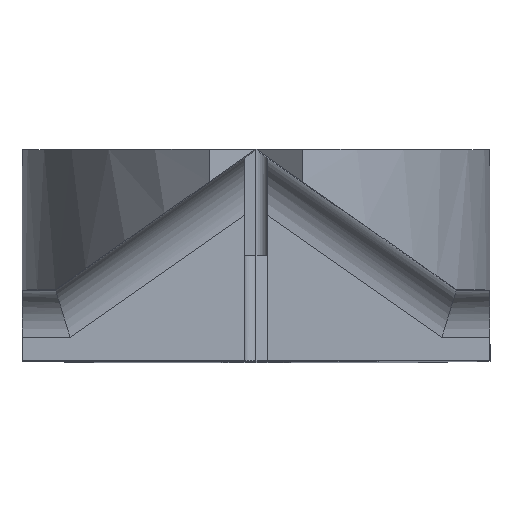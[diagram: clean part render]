
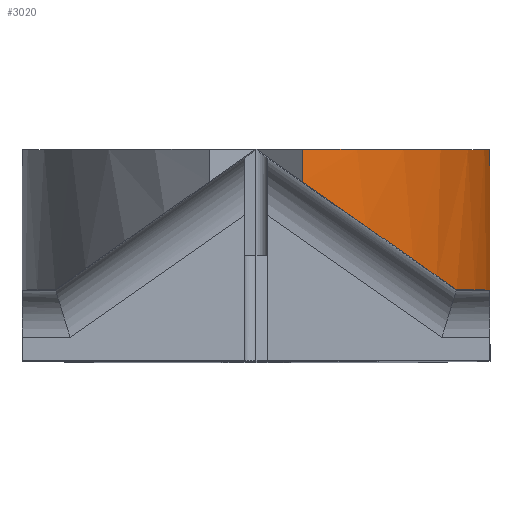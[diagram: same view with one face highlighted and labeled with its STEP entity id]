
A CAD part, top view. The second image highlights one B-rep face of the part: STEP entity #3020.
In plain terms, the highlighted cylindrical face has radius 20 mm (diameter 40 mm), a partial arc.
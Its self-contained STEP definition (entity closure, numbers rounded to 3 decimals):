
#10 = VERTEX_POINT ( 'NONE', #963 ) ;
#35 = AXIS2_PLACEMENT_3D ( 'NONE', #1016, #2726, #1261 ) ;
#59 = EDGE_CURVE ( 'NONE', #10, #215, #2411, .T. ) ;
#215 = VERTEX_POINT ( 'NONE', #2945 ) ;
#223 = LINE ( 'NONE', #3101, #2754 ) ;
#426 = CARTESIAN_POINT ( 'NONE',  ( 2., 6., 35. ) ) ;
#480 = CARTESIAN_POINT ( 'NONE',  ( -10., 3., 19. ) ) ;
#518 = CIRCLE ( 'NONE', #35, 20. ) ;
#560 = AXIS2_PLACEMENT_3D ( 'NONE', #480, #2216, #731 ) ;
#581 = ORIENTED_EDGE ( 'NONE', *, *, #1966, .T. ) ;
#670 = DIRECTION ( 'NONE',  ( 0., -1., 0. ) ) ;
#731 = DIRECTION ( 'NONE',  ( -1., 0., 0. ) ) ;
#792 = FACE_OUTER_BOUND ( 'NONE', #2178, .T. ) ;
#860 = LINE ( 'NONE', #426, #2015 ) ;
#883 = CIRCLE ( 'NONE', #560, 20. ) ;
#963 = CARTESIAN_POINT ( 'NONE',  ( 2., 7.6, 35. ) ) ;
#987 = CARTESIAN_POINT ( 'NONE',  ( -10., 3., 19. ) ) ;
#1016 = CARTESIAN_POINT ( 'NONE',  ( -10., 9., 19. ) ) ;
#1229 = AXIS2_PLACEMENT_3D ( 'NONE', #987, #1230, #2458 ) ;
#1230 = DIRECTION ( 'NONE',  ( 0., 1., 0. ) ) ;
#1261 = DIRECTION ( 'NONE',  ( -1., 0., 0. ) ) ;
#1507 = CARTESIAN_POINT ( 'NONE',  ( 8.569, 3., 26.429 ) ) ;
#1630 = VERTEX_POINT ( 'NONE', #2180 ) ;
#1703 = CARTESIAN_POINT ( 'NONE',  ( 4.953, 5.532, 32.786 ) ) ;
#1917 = DIRECTION ( 'NONE',  ( 0., 1., 0. ) ) ;
#1966 = EDGE_CURVE ( 'NONE', #2510, #10, #860, .T. ) ;
#2015 = VECTOR ( 'NONE', #670, 1000. ) ;
#2120 = CYLINDRICAL_SURFACE ( 'NONE', #1229, 20. ) ;
#2135 = ORIENTED_EDGE ( 'NONE', *, *, #2474, .F. ) ;
#2178 = EDGE_LOOP ( 'NONE', ( #581, #2883, #2695, #2231, #2135 ) ) ;
#2180 = CARTESIAN_POINT ( 'NONE',  ( 10., 9., 19. ) ) ;
#2216 = DIRECTION ( 'NONE',  ( 0., 1., 0. ) ) ;
#2231 = ORIENTED_EDGE ( 'NONE', *, *, #3003, .T. ) ;
#2411 =( BOUNDED_CURVE ( )  B_SPLINE_CURVE ( 3, ( #2903, #1703, #2498, #1507 ),
 .UNSPECIFIED., .F., .F. ) 
 B_SPLINE_CURVE_WITH_KNOTS ( ( 4, 4 ),
 ( 2.214, 2.761 ),
 .UNSPECIFIED. ) 
 CURVE ( )  GEOMETRIC_REPRESENTATION_ITEM ( )  RATIONAL_B_SPLINE_CURVE ( ( 1., 0.975, 0.975, 1. ) ) 
 REPRESENTATION_ITEM ( '' )  );
#2458 = DIRECTION ( 'NONE',  ( -1., 0., 0. ) ) ;
#2474 = EDGE_CURVE ( 'NONE', #2510, #1630, #518, .T. ) ;
#2485 = CARTESIAN_POINT ( 'NONE',  ( 2., 9., 35. ) ) ;
#2498 = CARTESIAN_POINT ( 'NONE',  ( 7.198, 3.96, 29.856 ) ) ;
#2510 = VERTEX_POINT ( 'NONE', #2485 ) ;
#2695 = ORIENTED_EDGE ( 'NONE', *, *, #3008, .T. ) ;
#2711 = CARTESIAN_POINT ( 'NONE',  ( 10., 3., 19. ) ) ;
#2726 = DIRECTION ( 'NONE',  ( 0., 1., 0. ) ) ;
#2754 = VECTOR ( 'NONE', #1917, 1000. ) ;
#2883 = ORIENTED_EDGE ( 'NONE', *, *, #59, .T. ) ;
#2903 = CARTESIAN_POINT ( 'NONE',  ( 2., 7.6, 35. ) ) ;
#2945 = CARTESIAN_POINT ( 'NONE',  ( 8.569, 3., 26.429 ) ) ;
#3003 = EDGE_CURVE ( 'NONE', #3032, #1630, #223, .T. ) ;
#3008 = EDGE_CURVE ( 'NONE', #215, #3032, #883, .T. ) ;
#3020 = ADVANCED_FACE ( 'NONE', ( #792 ), #2120, .T. ) ;
#3032 = VERTEX_POINT ( 'NONE', #2711 ) ;
#3101 = CARTESIAN_POINT ( 'NONE',  ( 10., 6., 19. ) ) ;
